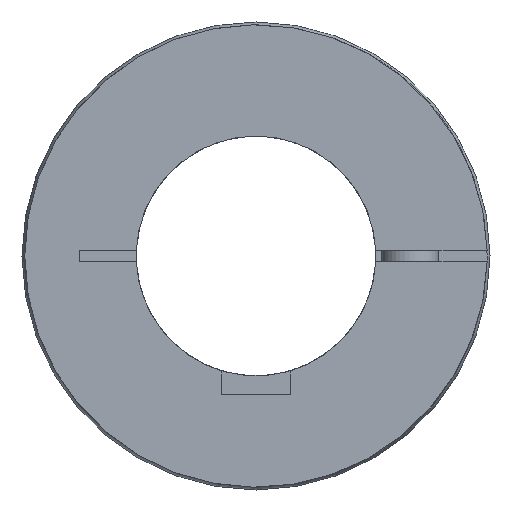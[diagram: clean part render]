
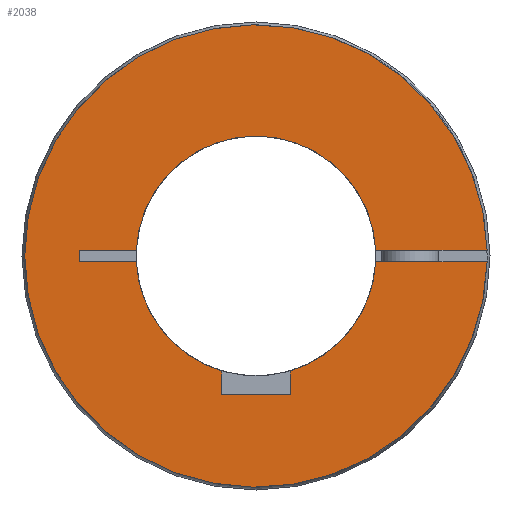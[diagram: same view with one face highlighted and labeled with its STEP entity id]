
A CAD part, left-side view. The second image highlights one B-rep face of the part: STEP entity #2038.
In plain terms, the highlighted planar face has unit normal (-1, 0, 0).
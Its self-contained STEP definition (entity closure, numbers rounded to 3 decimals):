
#75=PLANE('',#2263);
#155=LINE('',#3393,#262);
#158=LINE('',#3399,#265);
#159=LINE('',#3401,#266);
#169=LINE('',#3420,#276);
#172=LINE('',#3430,#279);
#175=LINE('',#3436,#282);
#176=LINE('',#3437,#283);
#177=LINE('',#3439,#284);
#262=VECTOR('',#2682,1.);
#265=VECTOR('',#2687,1.);
#266=VECTOR('',#2690,1.);
#276=VECTOR('',#2708,1000.);
#279=VECTOR('',#2717,1000.);
#282=VECTOR('',#2722,1000.);
#283=VECTOR('',#2723,1000.);
#284=VECTOR('',#2724,1000.);
#395=FACE_OUTER_BOUND('',#517,.T.);
#517=EDGE_LOOP('',(#1514,#1515,#1516,#1517,#1518,#1519,#1520,#1521,#1522,
#1523,#1524,#1525));
#732=CIRCLE('',#2247,21.);
#734=CIRCLE('',#2249,21.);
#735=CIRCLE('',#2251,21.);
#739=CIRCLE('',#2264,40.5);
#915=VERTEX_POINT('',#3366);
#916=VERTEX_POINT('',#3368);
#919=VERTEX_POINT('',#3374);
#920=VERTEX_POINT('',#3376);
#921=VERTEX_POINT('',#3380);
#922=VERTEX_POINT('',#3381);
#926=VERTEX_POINT('',#3391);
#928=VERTEX_POINT('',#3397);
#933=VERTEX_POINT('',#3419);
#937=VERTEX_POINT('',#3429);
#939=VERTEX_POINT('',#3435);
#940=VERTEX_POINT('',#3438);
#1152=EDGE_CURVE('',#916,#915,#732,.T.);
#1156=EDGE_CURVE('',#920,#919,#734,.T.);
#1158=EDGE_CURVE('',#921,#922,#735,.T.);
#1164=EDGE_CURVE('',#919,#926,#155,.T.);
#1167=EDGE_CURVE('',#926,#928,#158,.T.);
#1168=EDGE_CURVE('',#928,#916,#159,.T.);
#1178=EDGE_CURVE('',#920,#933,#169,.T.);
#1183=EDGE_CURVE('',#937,#921,#172,.T.);
#1186=EDGE_CURVE('',#939,#915,#175,.T.);
#1187=EDGE_CURVE('',#937,#939,#176,.T.);
#1188=EDGE_CURVE('',#922,#940,#177,.T.);
#1189=EDGE_CURVE('',#940,#933,#739,.T.);
#1514=ORIENTED_EDGE('',*,*,#1156,.T.);
#1515=ORIENTED_EDGE('',*,*,#1164,.T.);
#1516=ORIENTED_EDGE('',*,*,#1167,.T.);
#1517=ORIENTED_EDGE('',*,*,#1168,.T.);
#1518=ORIENTED_EDGE('',*,*,#1152,.T.);
#1519=ORIENTED_EDGE('',*,*,#1186,.F.);
#1520=ORIENTED_EDGE('',*,*,#1187,.F.);
#1521=ORIENTED_EDGE('',*,*,#1183,.T.);
#1522=ORIENTED_EDGE('',*,*,#1158,.T.);
#1523=ORIENTED_EDGE('',*,*,#1188,.T.);
#1524=ORIENTED_EDGE('',*,*,#1189,.T.);
#1525=ORIENTED_EDGE('',*,*,#1178,.F.);
#2038=ADVANCED_FACE('',(#395),#75,.T.);
#2247=AXIS2_PLACEMENT_3D('',#3369,#2661,#2662);
#2249=AXIS2_PLACEMENT_3D('',#3377,#2667,#2668);
#2251=AXIS2_PLACEMENT_3D('',#3382,#2672,#2673);
#2263=AXIS2_PLACEMENT_3D('',#3434,#2720,#2721);
#2264=AXIS2_PLACEMENT_3D('',#3440,#2725,#2726);
#2661=DIRECTION('center_axis',(1.,0.,0.));
#2662=DIRECTION('ref_axis',(0.,0.,-1.));
#2667=DIRECTION('center_axis',(1.,0.,0.));
#2668=DIRECTION('ref_axis',(0.,0.,-1.));
#2672=DIRECTION('center_axis',(1.,0.,0.));
#2673=DIRECTION('ref_axis',(0.,0.,-1.));
#2682=DIRECTION('',(0.,0.,-1.));
#2687=DIRECTION('',(0.,1.,0.));
#2690=DIRECTION('',(0.,0.,1.));
#2708=DIRECTION('',(0.,-1.,0.));
#2717=DIRECTION('',(0.,-1.,0.));
#2720=DIRECTION('center_axis',(-1.,0.,0.));
#2721=DIRECTION('ref_axis',(0.,1.,0.));
#2722=DIRECTION('',(0.,-1.,0.));
#2723=DIRECTION('',(0.,0.,-1.));
#2724=DIRECTION('',(0.,-1.,0.));
#2725=DIRECTION('center_axis',(-1.,0.,0.));
#2726=DIRECTION('ref_axis',(0.,1.,0.));
#3366=CARTESIAN_POINT('',(0.,20.976,-1.));
#3368=CARTESIAN_POINT('',(0.,6.,-20.125));
#3369=CARTESIAN_POINT('Origin',(0.,0.,0.));
#3374=CARTESIAN_POINT('',(0.,-6.,-20.125));
#3376=CARTESIAN_POINT('',(0.,-20.976,-1.));
#3377=CARTESIAN_POINT('Origin',(0.,0.,0.));
#3380=CARTESIAN_POINT('',(0.,20.976,1.));
#3381=CARTESIAN_POINT('',(0.,-20.976,1.));
#3382=CARTESIAN_POINT('Origin',(0.,0.,0.));
#3391=CARTESIAN_POINT('',(0.,-6.,-24.3));
#3393=CARTESIAN_POINT('',(0.,-6.,-9.575));
#3397=CARTESIAN_POINT('',(0.,6.,-24.3));
#3399=CARTESIAN_POINT('',(0.,0.,-24.3));
#3401=CARTESIAN_POINT('',(0.,6.,-9.575));
#3419=CARTESIAN_POINT('',(0.,-40.488,-1.));
#3420=CARTESIAN_POINT('',(0.,31.,-1.));
#3429=CARTESIAN_POINT('',(0.,31.,1.));
#3430=CARTESIAN_POINT('',(0.,31.,1.));
#3434=CARTESIAN_POINT('Origin',(0.,0.,-7.));
#3435=CARTESIAN_POINT('',(0.,31.,-1.));
#3436=CARTESIAN_POINT('',(0.,31.,-1.));
#3437=CARTESIAN_POINT('',(0.,31.,1.));
#3438=CARTESIAN_POINT('',(0.,-40.488,1.));
#3439=CARTESIAN_POINT('',(0.,31.,1.));
#3440=CARTESIAN_POINT('Origin',(0.,0.,0.));
